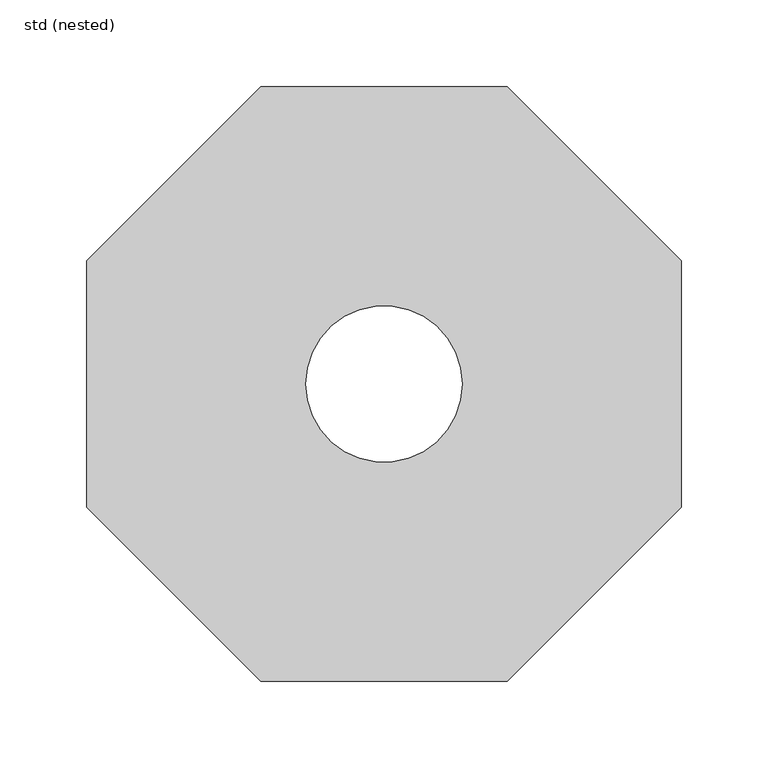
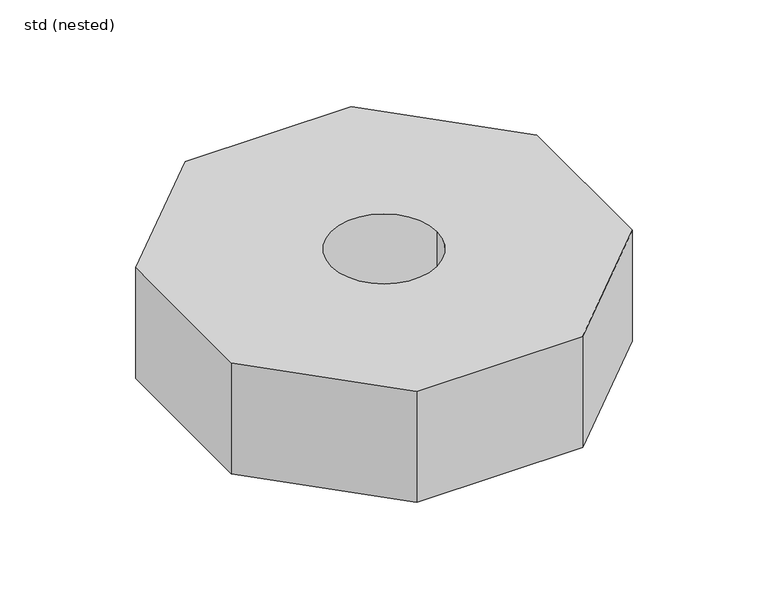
"""IFC4 building model written with IfcOpenShell, lengths in millimetres: sanitary terminal geometry, ZZZ_do not use_PF_CG_insulating body_ACO : std (nested)."""

from ifc_helpers import new_model, si_unit, point, frame, origin, origin_2d, place, context, project, spatial, polyline, circle_curve, trimmed, segment, composite_curve, outline, extrude, source, transform, mapped, element, save


def std_nested_9b388c5e(model_context):
    return source(origin(), model_context, "Body", "SweptSolid", [
        extrude(outline(polyline([(70.8305192, 171.0), (171.0, 70.8305192), (171.0, -70.8305192), (70.8305192, -171.0), (-70.8305192, -171.0), (-171.0, -70.8305192), (-171.0, 70.8305192), (-70.8305192, 171.0), (70.8305192, 171.0)]), holes=[composite_curve([segment(trimmed(circle_curve(origin_2d(), 45.0), [point((-45.0, 0.0))], [point((45.0, 0.0))], True, "CARTESIAN"), True, "CONTINUOUS"), segment(trimmed(circle_curve(origin_2d(), 45.0), [point((45.0, 0.0))], [point((-45.0, 0.0))], True, "CARTESIAN"), True, "CONTINUOUS")], self_intersect=False)]), frame((0.0, 0.0, -100.0), z_axis=(0.0, 0.0, 1.0), x_axis=(1.0, 0.0, 0.0)), (0.0, 0.0, 1.0), 100.0),
    ])


if __name__ == "__main__":
    model = new_model("IFC4")
    model_context = context("Model", 3, world=origin())
    ifc_project = project(units=[si_unit("LENGTHUNIT", "METRE", prefix="MILLI")], contexts=[model_context])
    site = spatial("IfcSite", under=ifc_project)
    building = spatial("IfcBuilding", under=site)
    placement = place(None, origin())
    std_nested_shape = std_nested_9b388c5e(model_context)
    element("IfcSanitaryTerminal", 1, ObjectType="ZZZ_do not use_PF_CG_insulating body_ACO : std (nested)", at=placement, inside=building, context=model_context, shape_type="MappedRepresentation", body=[
        mapped(std_nested_shape, transform((0.0, 0.0, 0.0), x_axis=(1.0, 0.0, 0.0), y_axis=(0.0, 1.0, 0.0), z_axis=(0.0, 0.0, 1.0))),
    ])
    save(model, "model.ifc")
